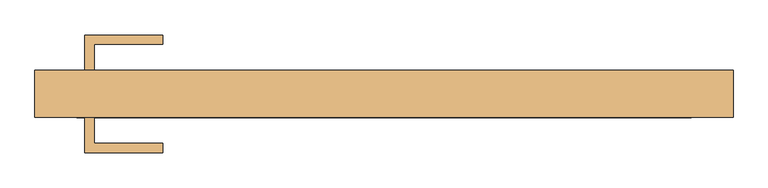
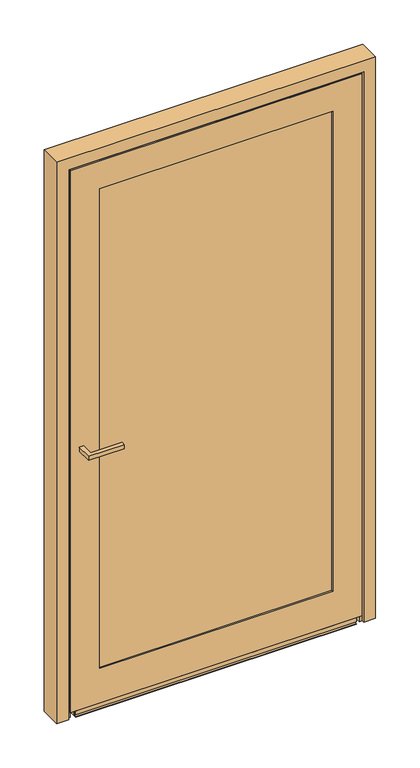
"""IFC4 building model written with IfcOpenShell, lengths in millimetres: door geometry, Reynaers_MasterLine 8_Door_Plinth_Outward Opening_Single Vent : Reynaers_MasterLine 8_Door_Plinth_Outward Opening_Single Vent."""

from ifc_helpers import new_model, si_unit, point, frame, frame_2d, origin, place, context, project, spatial, polyline, circle_curve, trimmed, segment, composite_curve, outline, extrude, faceted_brep, source, transform, mapped, element, save


def door_3220e770(model_context):
    return source(origin(), model_context, "Body", "SolidModel", [
        extrude(outline(polyline([(-488.5, -80.0), (-473.5, -80.0), (-473.5, -122.5), (-361.0, -122.5), (-361.0, -137.5), (-488.5, -137.5), (-488.5, -80.0)])), frame((0.0, 0.0, 1001.0), z_axis=(0.0, 0.0, 1.0), x_axis=(1.0, 0.0, 0.0)), (0.0, 0.0, 1.0), 15.0),
        extrude(outline(polyline([(-488.5, -3.0), (-488.5, 54.5), (-361.0, 54.5), (-361.0, 39.5), (-473.5, 39.5), (-473.5, -3.0), (-488.5, -3.0)])), frame((0.0, 0.0, 1001.0), z_axis=(0.0, 0.0, 1.0), x_axis=(1.0, 0.0, 0.0)), (0.0, 0.0, 1.0), 15.0),
        extrude(outline(polyline([(436.0, -48.0), (436.0, -72.0), (-436.0, -72.0), (-436.0, -48.0), (436.0, -48.0)])), frame((0.0, 0.0, 136.5), z_axis=(0.0, 0.0, 1.0), x_axis=(1.0, 0.0, 0.0)), (0.0, 0.0, 1.0), 1849.5),
        faceted_brep([(-506.5, -76.2, 25.5), (-506.5, -76.0000025, 25.5), (506.5, -76.0000025, 25.5), (506.5, -76.2, 25.5), (521.5, -76.2, 25.5), (521.5, -80.0, 25.5), (-521.5, -80.0, 25.5), (-521.5, -76.2, 25.5), (-495.5, -3.0, 25.5), (495.5, -3.0, 25.5), (495.5, -7.0, 25.5), (-495.5, -7.0, 25.5), (-506.5, -76.2, 2056.5), (506.5, -76.2, 2056.5), (506.5, -11.8, 2056.5), (-506.5, -11.8, 2056.5), (-521.5, -80.0, 2071.5), (521.5, -80.0, 2071.5), (521.5, -76.2, 2071.5), (-521.5, -76.2, 2071.5), (-417.0, -72.0, 1967.0), (417.0, -72.0, 1967.0), (417.0, -80.0, 1967.0), (-417.0, -80.0, 1967.0), (-444.0, -3.0, 1994.0), (444.0, -3.0, 1994.0), (444.0, -72.0, 1994.0), (-444.0, -72.0, 1994.0), (-495.5, -11.8, 2045.5), (495.5, -11.8, 2045.5), (495.5, -3.0, 2045.5), (-495.5, -3.0, 2045.5), (506.5, -76.2, 55.5), (506.5, -11.8, 55.5), (506.5, -76.0000025, 27.0), (506.5, -76.2, 27.0), (521.5, -76.2, 27.0), (521.5, -78.0000025, 27.0), (521.5, -78.0000025, 55.5), (521.5, -76.2, 55.5), (417.0, -72.0, 128.5), (417.0, -76.0000025, 128.5), (417.0, -76.0000025, 155.5), (417.0, -80.0, 155.5), (444.0, -3.0, 128.5), (444.0, -72.0, 128.5), (495.5, -11.8, 55.5), (495.5, -5.0, 55.5), (495.5, -5.0, 27.0), (495.5, -7.0, 27.0), (-506.5, -11.8, 55.5), (-506.5, -76.2, 55.5), (-506.5, -76.2, 27.0), (-506.5, -76.0000025, 27.0), (-521.5, -76.2, 55.5), (-521.5, -76.2, 27.0), (-521.5, -78.0000025, 55.5), (-521.5, -78.0000025, 27.0), (-417.0, -80.0, 155.5), (-417.0, -76.0000025, 155.5), (-417.0, -76.0000025, 128.5), (-417.0, -72.0, 128.5), (-444.0, -72.0, 128.5), (-444.0, -3.0, 128.5), (-495.5, -7.0, 27.0), (-495.5, -5.0, 27.0), (-495.5, -5.0, 55.5), (-495.5, -11.8, 55.5)], [[[0, 1, 2, 3, 4, 5, 6, 7]], [[8, 9, 10, 11]], [[12, 13, 14, 15]], [[16, 17, 18, 19]], [[20, 21, 22, 23]], [[24, 25, 26, 27]], [[28, 29, 30, 31]], [[13, 32, 33, 14]], [[2, 34, 35, 3]], [[4, 36, 37, 38, 39, 18, 17, 5]], [[21, 40, 41, 42, 43, 22]], [[25, 44, 45, 26]], [[29, 46, 47, 48, 49, 10, 9, 30]], [[15, 50, 51, 12]], [[0, 52, 53, 1]], [[3, 35, 36, 4]], [[12, 51, 54, 19, 18, 39, 32, 13]], [[7, 55, 52, 0]], [[6, 16, 19, 54, 56, 57, 55, 7]], [[16, 6, 5, 17], [23, 22, 43, 58]], [[23, 58, 59, 60, 61, 20]], [[20, 61, 62, 27, 26, 45, 40, 21]], [[27, 62, 63, 24]], [[8, 31, 30, 9], [25, 24, 63, 44]], [[31, 8, 11, 64, 65, 66, 67, 28]], [[14, 33, 46, 29, 28, 67, 50, 15]], [[37, 57, 56, 38]], [[34, 53, 52, 55, 57, 37, 36, 35]], [[1, 53, 34, 2]], [[49, 64, 11, 10]], [[49, 48, 65, 64]], [[48, 47, 66, 65]], [[47, 46, 33, 32, 39, 38, 56, 54, 51, 50, 67, 66]], [[43, 42, 59, 58]], [[42, 41, 60, 59]], [[63, 62, 61, 60, 41, 40, 45, 44]]]),
        extrude(outline(composite_curve([segment(polyline([(-80.0, 2.3), (-71.2, 3.0699002), (-71.2, 12.0), (-16.9598567, 12.0), (-12.715272, 17.0584991)]), True, "CONTINUOUS"), segment(trimmed(circle_curve(frame_2d((-13.2202059, 20.4079232)), 3.3872704), [point((-12.715272, 17.0584991))], [point((-14.0893094, 17.1340479))], False, "CARTESIAN"), True, "CONTINUOUS"), segment(trimmed(circle_curve(frame_2d((-11.5515107, 25.5790258)), 8.8180539), [point((-14.0893094, 17.1340479))], [point((-18.8817828, 20.6774766))], False, "CARTESIAN"), True, "CONTINUOUS"), segment(trimmed(circle_curve(frame_2d((-27.1898738, 13.5183103)), 10.9671344), [point((-18.8817828, 20.6774766))], [point((-21.6442029, 22.98))], True, "CARTESIAN"), True, "CONTINUOUS"), segment(polyline([(-21.6442029, 22.98), (-23.4619918, 22.98), (-23.4619918, 55.5), (-14.8619918, 55.5), (-14.8619918, 23.7951936), (-13.2202059, 23.7951936)]), True, "CONTINUOUS"), segment(trimmed(circle_curve(frame_2d((-13.2202059, 20.4079232)), 3.3872704), [point((-13.2202059, 23.7951936))], [point((-10.1542455, 18.9679624))], False, "CARTESIAN"), True, "CONTINUOUS"), segment(polyline([(-10.1542455, 18.9679624), (-3.0, 13.9585057), (-3.0, 1.0), (-80.0, 1.0), (-80.0, 2.3)]), True, "CONTINUOUS")], self_intersect=False)), frame((-501.5, 0.0, 0.0), z_axis=(1.0, 0.0, 0.0), x_axis=(0.0, 1.0, 0.0)), (0.0, 0.0, 1.0), 1003.0),
        extrude(outline(composite_curve([segment(polyline([(-79.9999857, 10.5), (-79.9999857, 25.0)]), True, "CONTINUOUS"), segment(trimmed(circle_curve(frame_2d((-79.4999857, 25.0)), 0.5), [point((-79.9999857, 25.0))], [point((-79.4999857, 25.5))], False, "CARTESIAN"), True, "CONTINUOUS"), segment(polyline([(-79.4999857, 25.5), (-64.9999853, 25.5), (-64.9999853, 24.0), (-77.4999857, 24.0)]), True, "CONTINUOUS"), segment(trimmed(circle_curve(frame_2d((-77.4999857, 23.5)), 0.5), [point((-77.4999857, 24.0))], [point((-77.9999857, 23.5))], True, "CARTESIAN"), True, "CONTINUOUS"), segment(polyline([(-77.9999857, 23.5), (-77.9999857, 20.5), (-76.1999857, 20.5), (-76.1999857, 10.5), (-79.9999857, 10.5)]), True, "CONTINUOUS")], self_intersect=False)), frame((-501.5, 0.0, 0.0), z_axis=(1.0, 0.0, 0.0), x_axis=(0.0, 1.0, 0.0)), (0.0, 0.0, 1.0), 1003.0),
        extrude(outline(polyline([(1994.0, 444.0), (1994.0, -444.0), (128.5, -444.0), (128.5, 444.0), (1994.0, 444.0)]), holes=[polyline([(1969.0, -419.0), (1969.0, 419.0), (153.5, 419.0), (153.5, -419.0), (1969.0, -419.0)])]), frame((0.0, -44.0, 0.0), z_axis=(0.0, 1.0, 0.0), x_axis=(0.0, 0.0, 1.0)), (0.0, 0.0, 1.0), 41.0),
        faceted_brep([(-527.5, -71.2, 0.0), (-527.5, -80.0, 0.0), (-570.0, -80.0, 0.0), (-570.0, -3.0, 0.0), (-501.5, -3.0, 0.0), (-501.5, -6.8, 0.0), (-516.5, -6.8, 0.0), (-516.5, -71.2, 0.0), (527.5, -71.2, 0.0), (516.5, -71.2, 0.0), (516.5, -6.8, 0.0), (501.5, -6.8, 0.0), (501.5, -3.0, 0.0), (570.0, -3.0, 0.0), (570.0, -80.0, 0.0), (527.5, -80.0, 0.0), (-516.5, -71.2, 2066.5), (516.5, -71.2, 2066.5), (527.5, -71.2, 2077.5), (-527.5, -71.2, 2077.5), (-516.5, -6.8, 2066.5), (-501.5, -6.8, 2051.5), (501.5, -6.8, 2051.5), (516.5, -6.8, 2066.5), (-501.5, -3.0, 2051.5), (-570.0, -3.0, 2120.0), (570.0, -3.0, 2120.0), (501.5, -3.0, 2051.5), (-570.0, -80.0, 2120.0), (-527.5, -80.0, 2077.5), (527.5, -80.0, 2077.5), (570.0, -80.0, 2120.0)], [[[0, 1, 2, 3, 4, 5, 6, 7]], [[8, 9, 10, 11, 12, 13, 14, 15]], [[7, 16, 17, 9, 8, 18, 19, 0]], [[6, 20, 16, 7]], [[5, 21, 22, 11, 10, 23, 20, 6]], [[4, 24, 21, 5]], [[3, 25, 26, 13, 12, 27, 24, 4]], [[2, 28, 25, 3]], [[1, 29, 30, 15, 14, 31, 28, 2]], [[0, 19, 29, 1]], [[20, 23, 17, 16]], [[24, 27, 22, 21]], [[28, 31, 26, 25]], [[19, 18, 30, 29]], [[23, 10, 9, 17]], [[27, 12, 11, 22]], [[31, 14, 13, 26]], [[18, 8, 15, 30]]]),
    ])


if __name__ == "__main__":
    model = new_model("IFC4")
    model_context = context("Model", 3, world=origin())
    ifc_project = project(units=[si_unit("LENGTHUNIT", "METRE", prefix="MILLI")], contexts=[model_context])
    site = spatial("IfcSite", under=ifc_project)
    building = spatial("IfcBuilding", under=site)
    placement = place(None, origin())
    door_shape = door_3220e770(model_context)
    element("IfcDoor", 1, ObjectType="Reynaers_MasterLine 8_Door_Plinth_Outward Opening_Single Vent : Reynaers_MasterLine 8_Door_Plinth_Outward Opening_Single Vent", at=placement, inside=building, context=model_context, shape_type="MappedRepresentation", body=[
        mapped(door_shape, transform((0.0, 0.0, 0.0), x_axis=(1.0, 0.0, 0.0), y_axis=(0.0, 1.0, 0.0), z_axis=(0.0, 0.0, 1.0))),
    ])
    save(model, "model.ifc")
